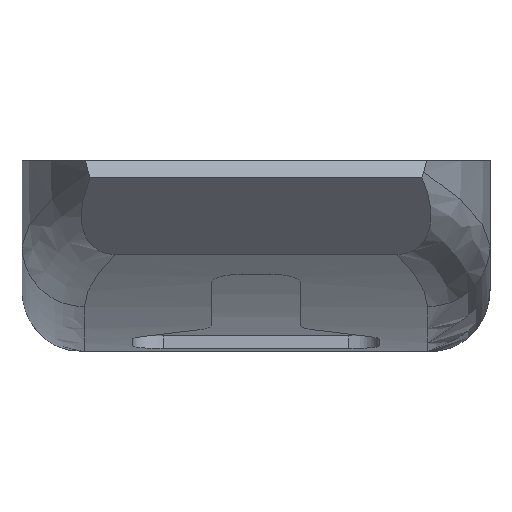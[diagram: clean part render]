
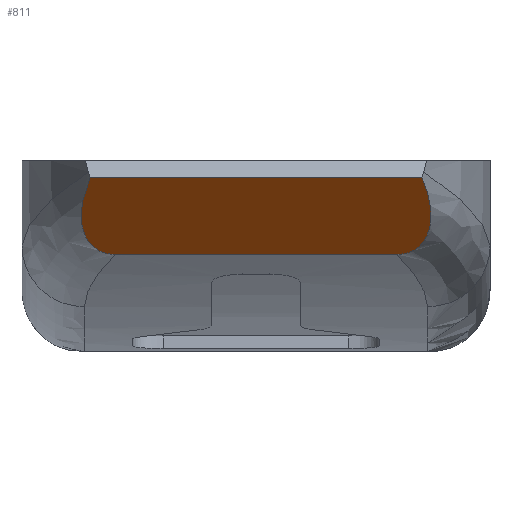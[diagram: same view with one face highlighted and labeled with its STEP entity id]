
A CAD part, front view. The second image highlights one B-rep face of the part: STEP entity #811.
In plain terms, the highlighted planar face has unit normal (0, -0.707, -0.707).
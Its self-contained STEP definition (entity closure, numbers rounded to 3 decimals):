
#6 = CARTESIAN_POINT ( 'NONE',  ( -9.013, -63.617, -5.015 ) ) ;
#46 = CARTESIAN_POINT ( 'NONE',  ( -10.118, -63.883, -4.749 ) ) ;
#67 = CARTESIAN_POINT ( 'NONE',  ( -11.166, -65.485, -3.147 ) ) ;
#294 = CARTESIAN_POINT ( 'NONE',  ( 9.832, -63.75, -4.882 ) ) ;
#340 = CARTESIAN_POINT ( 'NONE',  ( -10.248, -63.964, -4.668 ) ) ;
#361 = CARTESIAN_POINT ( 'NONE',  ( -11.198, -66.674, -1.958 ) ) ;
#396 = ORIENTED_EDGE ( 'NONE', *, *, #567, .F. ) ;
#422 = CARTESIAN_POINT ( 'NONE',  ( 9.013, -63.617, -5.015 ) ) ;
#469 = CARTESIAN_POINT ( 'NONE',  ( -9.013, -63.617, -5.015 ) ) ;
#472 = FACE_OUTER_BOUND ( 'NONE', #1140, .T. ) ;
#484 = DIRECTION ( 'NONE',  ( -1., 0., 0. ) ) ;
#565 = CARTESIAN_POINT ( 'NONE',  ( 10.811, -64.553, -4.079 ) ) ;
#567 = EDGE_CURVE ( 'NONE', #685, #2859, #3029, .T. ) ;
#603 = CARTESIAN_POINT ( 'NONE',  ( 9.184, -63.617, -5.015 ) ) ;
#618 = AXIS2_PLACEMENT_3D ( 'NONE', #2118, #1479, #2058 ) ;
#649 = CARTESIAN_POINT ( 'NONE',  ( 9.013, -63.617, -5.015 ) ) ;
#685 = VERTEX_POINT ( 'NONE', #422 ) ;
#705 = CARTESIAN_POINT ( 'NONE',  ( -11.243, -66.204, -2.428 ) ) ;
#716 = B_SPLINE_CURVE_WITH_KNOTS ( 'NONE', 3,
 ( #649, #603, #3775, #3105, #294, #1869, #1559, #2510, #2193, #896, #565, #3448, #1832, #2135, #1887, #1910, #3697, #3143, #1518, #4026 ),
 .UNSPECIFIED., .F., .F.,
 ( 4, 2, 2, 2, 2, 2, 2, 2, 2, 4 ),
 ( 0., 0.001, 0.001, 0.002, 0.002, 0.003, 0.003, 0.004, 0.006, 0.008 ),
 .UNSPECIFIED. ) ;
#790 = EDGE_CURVE ( 'NONE', #2364, #3619, #1731, .T. ) ;
#811 = ADVANCED_FACE ( 'NONE', ( #472 ), #3910, .F. ) ;
#896 = CARTESIAN_POINT ( 'NONE',  ( 10.738, -64.443, -4.189 ) ) ;
#977 = CARTESIAN_POINT ( 'NONE',  ( -10.841, -68.064, -0.568 ) ) ;
#1071 = CARTESIAN_POINT ( 'NONE',  ( -10.639, -68.519, -0.113 ) ) ;
#1140 = EDGE_LOOP ( 'NONE', ( #1705, #1348, #396, #1411 ) ) ;
#1305 = CARTESIAN_POINT ( 'NONE',  ( -9.836, -63.752, -4.88 ) ) ;
#1348 = ORIENTED_EDGE ( 'NONE', *, *, #3853, .T. ) ;
#1411 = ORIENTED_EDGE ( 'NONE', *, *, #2991, .T. ) ;
#1465 = VECTOR ( 'NONE', #484, 1000. ) ;
#1479 = DIRECTION ( 'NONE',  ( 0., 0.707, 0.707 ) ) ;
#1518 = CARTESIAN_POINT ( 'NONE',  ( 10.842, -68.064, -0.568 ) ) ;
#1554 = CARTESIAN_POINT ( 'NONE',  ( 10.639, -68.519, -0.113 ) ) ;
#1559 = CARTESIAN_POINT ( 'NONE',  ( 10.243, -63.961, -4.671 ) ) ;
#1617 = CARTESIAN_POINT ( 'NONE',  ( -11.117, -65.247, -3.385 ) ) ;
#1657 = CARTESIAN_POINT ( 'NONE',  ( -10.639, -68.519, -0.113 ) ) ;
#1685 = VECTOR ( 'NONE', #3974, 1000. ) ;
#1705 = ORIENTED_EDGE ( 'NONE', *, *, #790, .T. ) ;
#1731 = LINE ( 'NONE', #3310, #1465 ) ;
#1832 = CARTESIAN_POINT ( 'NONE',  ( 10.986, -64.888, -3.744 ) ) ;
#1869 = CARTESIAN_POINT ( 'NONE',  ( 10.114, -63.881, -4.751 ) ) ;
#1887 = CARTESIAN_POINT ( 'NONE',  ( 11.164, -65.472, -3.16 ) ) ;
#1910 = CARTESIAN_POINT ( 'NONE',  ( 11.242, -66.183, -2.449 ) ) ;
#1944 = CARTESIAN_POINT ( 'NONE',  ( -9.681, -63.7, -4.932 ) ) ;
#2058 = DIRECTION ( 'NONE',  ( 0., -0.707, 0.707 ) ) ;
#2118 = CARTESIAN_POINT ( 'NONE',  ( 15., -63.617, -5.015 ) ) ;
#2135 = CARTESIAN_POINT ( 'NONE',  ( 11.113, -65.233, -3.399 ) ) ;
#2193 = CARTESIAN_POINT ( 'NONE',  ( 10.567, -64.237, -4.395 ) ) ;
#2235 = CARTESIAN_POINT ( 'NONE',  ( -9.184, -63.617, -5.015 ) ) ;
#2275 = CARTESIAN_POINT ( 'NONE',  ( -10.829, -64.555, -4.077 ) ) ;
#2364 = VERTEX_POINT ( 'NONE', #1554 ) ;
#2510 = CARTESIAN_POINT ( 'NONE',  ( 10.47, -64.14, -4.492 ) ) ;
#2567 = CARTESIAN_POINT ( 'NONE',  ( -10.572, -64.242, -4.39 ) ) ;
#2859 = VERTEX_POINT ( 'NONE', #469 ) ;
#2991 = EDGE_CURVE ( 'NONE', #685, #2364, #716, .T. ) ;
#3029 = LINE ( 'NONE', #3394, #1685 ) ;
#3105 = CARTESIAN_POINT ( 'NONE',  ( 9.675, -63.699, -4.933 ) ) ;
#3143 = CARTESIAN_POINT ( 'NONE',  ( 11., -67.601, -1.031 ) ) ;
#3181 = CARTESIAN_POINT ( 'NONE',  ( -9.353, -63.632, -5. ) ) ;
#3201 = CARTESIAN_POINT ( 'NONE',  ( -10.947, -64.78, -3.852 ) ) ;
#3310 = CARTESIAN_POINT ( 'NONE',  ( 15., -68.519, -0.113 ) ) ;
#3341 = B_SPLINE_CURVE_WITH_KNOTS ( 'NONE', 3,
 ( #1657, #977, #3493, #361, #705, #67, #1617, #3201, #2275, #2567, #3837, #340, #46, #1305, #1944, #3181, #2235, #6 ),
 .UNSPECIFIED., .F., .F.,
 ( 4, 2, 2, 2, 2, 2, 2, 2, 4 ),
 ( 0., 0.002, 0.004, 0.005, 0.006, 0.006, 0.007, 0.007, 0.008 ),
 .UNSPECIFIED. ) ;
#3394 = CARTESIAN_POINT ( 'NONE',  ( 15., -63.617, -5.015 ) ) ;
#3448 = CARTESIAN_POINT ( 'NONE',  ( 10.935, -64.775, -3.857 ) ) ;
#3493 = CARTESIAN_POINT ( 'NONE',  ( -10.999, -67.604, -1.028 ) ) ;
#3619 = VERTEX_POINT ( 'NONE', #1071 ) ;
#3697 = CARTESIAN_POINT ( 'NONE',  ( 11.201, -66.657, -1.975 ) ) ;
#3775 = CARTESIAN_POINT ( 'NONE',  ( 9.351, -63.632, -5. ) ) ;
#3837 = CARTESIAN_POINT ( 'NONE',  ( -10.474, -64.143, -4.489 ) ) ;
#3853 = EDGE_CURVE ( 'NONE', #3619, #2859, #3341, .T. ) ;
#3910 = PLANE ( 'NONE',  #618 ) ;
#3974 = DIRECTION ( 'NONE',  ( -1., 0., 0. ) ) ;
#4026 = CARTESIAN_POINT ( 'NONE',  ( 10.639, -68.519, -0.113 ) ) ;
